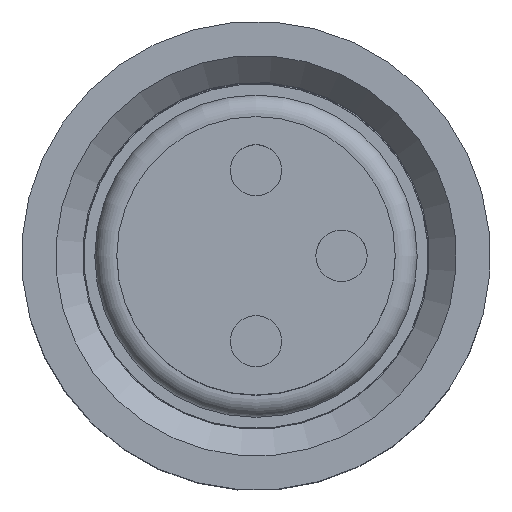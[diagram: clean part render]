
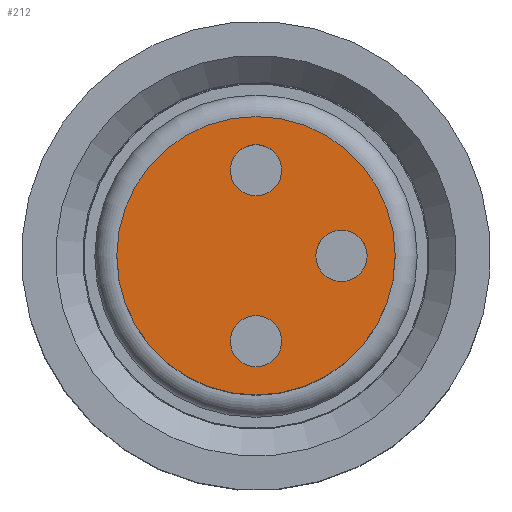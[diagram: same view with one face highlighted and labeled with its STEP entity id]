
A CAD part, top view. The second image highlights one B-rep face of the part: STEP entity #212.
In plain terms, the highlighted planar face has unit normal (0, 0, 1).
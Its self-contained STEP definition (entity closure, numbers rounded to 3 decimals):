
#212 = ADVANCED_FACE( '', ( #488, #489, #490, #491 ), #492, .T. );
#488 = FACE_OUTER_BOUND( '', #822, .T. );
#489 = FACE_BOUND( '', #823, .T. );
#490 = FACE_BOUND( '', #824, .T. );
#491 = FACE_BOUND( '', #825, .T. );
#492 = PLANE( '', #826 );
#822 = EDGE_LOOP( '', ( #1394 ) );
#823 = EDGE_LOOP( '', ( #1395 ) );
#824 = EDGE_LOOP( '', ( #1396 ) );
#825 = EDGE_LOOP( '', ( #1397 ) );
#826 = AXIS2_PLACEMENT_3D( '', #1398, #1399, #1400 );
#1394 = ORIENTED_EDGE( '', *, *, #1959, .T. );
#1395 = ORIENTED_EDGE( '', *, *, #1960, .F. );
#1396 = ORIENTED_EDGE( '', *, *, #1882, .T. );
#1397 = ORIENTED_EDGE( '', *, *, #1798, .T. );
#1398 = CARTESIAN_POINT( '', ( 1.425, 0., 13.264 ) );
#1399 = DIRECTION( '', ( 0., 0., 1. ) );
#1400 = DIRECTION( '', ( 0., 1., 0. ) );
#1798 = EDGE_CURVE( '', #2064, #2064, #2065, .T. );
#1882 = EDGE_CURVE( '', #2205, #2205, #2206, .T. );
#1959 = EDGE_CURVE( '', #2325, #2325, #2326, .T. );
#1960 = EDGE_CURVE( '', #2327, #2327, #2328, .T. );
#2064 = VERTEX_POINT( '', #2446 );
#2065 = CIRCLE( '', #2447, 0.525 );
#2205 = VERTEX_POINT( '', #2690 );
#2206 = CIRCLE( '', #2691, 0.525 );
#2325 = VERTEX_POINT( '', #2931 );
#2326 = CIRCLE( '', #2932, 2.85 );
#2327 = VERTEX_POINT( '', #2933 );
#2328 = CIRCLE( '', #2934, 0.525 );
#2446 = CARTESIAN_POINT( '', ( 1.75, -0.525, 13.264 ) );
#2447 = AXIS2_PLACEMENT_3D( '', #3172, #3173, #3174 );
#2690 = CARTESIAN_POINT( '', ( -0.525, -1.75, 13.264 ) );
#2691 = AXIS2_PLACEMENT_3D( '', #3293, #3294, #3295 );
#2931 = CARTESIAN_POINT( '', ( 2.85, 0., 13.264 ) );
#2932 = AXIS2_PLACEMENT_3D( '', #3376, #3377, #3378 );
#2933 = CARTESIAN_POINT( '', ( 0.525, 1.75, 13.264 ) );
#2934 = AXIS2_PLACEMENT_3D( '', #3379, #3380, #3381 );
#3172 = CARTESIAN_POINT( '', ( 1.75, 0., 13.264 ) );
#3173 = DIRECTION( '', ( 0., 0., -1. ) );
#3174 = DIRECTION( '', ( 0., -1., 0. ) );
#3293 = CARTESIAN_POINT( '', ( 0., -1.75, 13.264 ) );
#3294 = DIRECTION( '', ( 0., 0., -1. ) );
#3295 = DIRECTION( '', ( -1., 0., 0. ) );
#3376 = CARTESIAN_POINT( '', ( 0., 0., 13.264 ) );
#3377 = DIRECTION( '', ( 0., 0., 1. ) );
#3378 = DIRECTION( '', ( 1., 0., 0. ) );
#3379 = CARTESIAN_POINT( '', ( 0., 1.75, 13.264 ) );
#3380 = DIRECTION( '', ( 0., 0., 1. ) );
#3381 = DIRECTION( '', ( 1., 0., 0. ) );
